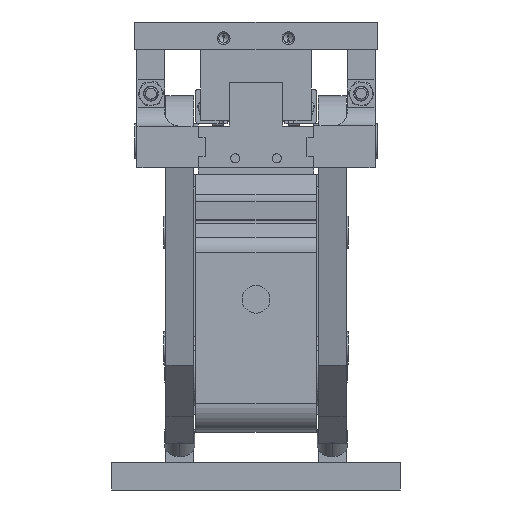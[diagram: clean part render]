
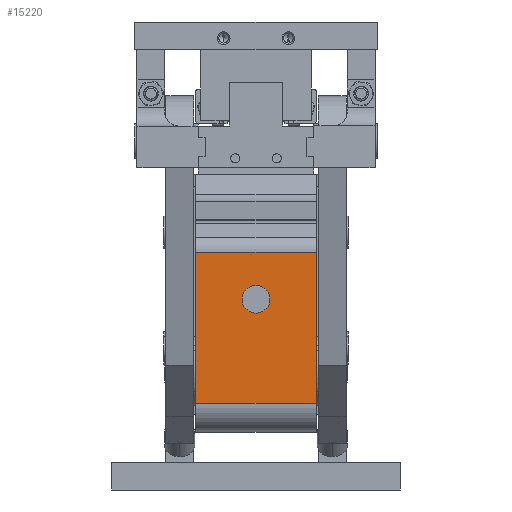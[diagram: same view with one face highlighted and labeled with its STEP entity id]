
A CAD part, left-side view. The second image highlights one B-rep face of the part: STEP entity #15220.
In plain terms, the highlighted planar face has unit normal (-1, 0, 0) as drawn and (0, 1, 0) by its records, which use the part's own axes.
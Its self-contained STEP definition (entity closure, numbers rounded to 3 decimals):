
#47 = ORIENTED_EDGE ( 'NONE', *, *, #2845, .F. ) ;
#1355 = EDGE_CURVE ( 'NONE', #35245, #37307, #11008, .T. ) ;
#1666 = DIRECTION ( 'NONE',  ( 0., 1., 0. ) ) ;
#2845 = EDGE_CURVE ( 'NONE', #35245, #44716, #15379, .T. ) ;
#4249 = CARTESIAN_POINT ( 'NONE',  ( 31., 51.5, -4. ) ) ;
#5165 = VECTOR ( 'NONE', #31741, 1000. ) ;
#6600 = DIRECTION ( 'NONE',  ( 0., 0., -1. ) ) ;
#6677 = VECTOR ( 'NONE', #6600, 1000. ) ;
#6683 = VERTEX_POINT ( 'NONE', #27496 ) ;
#7921 = VECTOR ( 'NONE', #17862, 1000. ) ;
#9462 = CARTESIAN_POINT ( 'NONE',  ( -14., 51.5, 27. ) ) ;
#10141 = FACE_BOUND ( 'NONE', #35307, .T. ) ;
#11008 = LINE ( 'NONE', #41574, #5165 ) ;
#11276 = EDGE_CURVE ( 'NONE', #6683, #25161, #29458, .T. ) ;
#12757 = CIRCLE ( 'NONE', #44839, 4. ) ;
#13788 = DIRECTION ( 'NONE',  ( 0., 0., -1. ) ) ;
#14391 = EDGE_CURVE ( 'NONE', #44716, #41530, #30748, .T. ) ;
#15220 = ADVANCED_FACE ( 'NONE', ( #10141, #37950 ), #17212, .F. ) ;
#15379 = LINE ( 'NONE', #39102, #27325 ) ;
#15524 = EDGE_LOOP ( 'NONE', ( #40608, #17689, #47, #22700 ) ) ;
#17129 = AXIS2_PLACEMENT_3D ( 'NONE', #40167, #36768, #32883 ) ;
#17212 = PLANE ( 'NONE',  #19101 ) ;
#17407 = EDGE_CURVE ( 'NONE', #25161, #6683, #12757, .T. ) ;
#17689 = ORIENTED_EDGE ( 'NONE', *, *, #14391, .F. ) ;
#17862 = DIRECTION ( 'NONE',  ( 1., 0., 0. ) ) ;
#19101 = AXIS2_PLACEMENT_3D ( 'NONE', #9462, #31096, #13788 ) ;
#21280 = CARTESIAN_POINT ( 'NONE',  ( 51.4, 51.5, 26. ) ) ;
#22700 = ORIENTED_EDGE ( 'NONE', *, *, #1355, .T. ) ;
#23192 = ORIENTED_EDGE ( 'NONE', *, *, #11276, .F. ) ;
#24181 = CARTESIAN_POINT ( 'NONE',  ( 51.4, 51.5, -26. ) ) ;
#24451 = CARTESIAN_POINT ( 'NONE',  ( -14., 51.5, -26. ) ) ;
#25161 = VERTEX_POINT ( 'NONE', #4249 ) ;
#27325 = VECTOR ( 'NONE', #32253, 1000. ) ;
#27496 = CARTESIAN_POINT ( 'NONE',  ( 31., 51.5, 4. ) ) ;
#29458 = CIRCLE ( 'NONE', #17129, 4. ) ;
#30748 = LINE ( 'NONE', #34178, #6677 ) ;
#31096 = DIRECTION ( 'NONE',  ( 0., -1., 0. ) ) ;
#31364 = CARTESIAN_POINT ( 'NONE',  ( -14., 51.5, 26. ) ) ;
#31741 = DIRECTION ( 'NONE',  ( 0., 0., -1. ) ) ;
#32253 = DIRECTION ( 'NONE',  ( -1., 0., 0. ) ) ;
#32678 = DIRECTION ( 'NONE',  ( 0., 0., -1. ) ) ;
#32883 = DIRECTION ( 'NONE',  ( 0., 0., -1. ) ) ;
#34178 = CARTESIAN_POINT ( 'NONE',  ( -14., 51.5, 27. ) ) ;
#34509 = LINE ( 'NONE', #24451, #7921 ) ;
#34932 = ORIENTED_EDGE ( 'NONE', *, *, #17407, .F. ) ;
#35245 = VERTEX_POINT ( 'NONE', #21280 ) ;
#35307 = EDGE_LOOP ( 'NONE', ( #34932, #23192 ) ) ;
#36022 = EDGE_CURVE ( 'NONE', #41530, #37307, #34509, .T. ) ;
#36768 = DIRECTION ( 'NONE',  ( 0., 1., 0. ) ) ;
#37307 = VERTEX_POINT ( 'NONE', #24181 ) ;
#37950 = FACE_OUTER_BOUND ( 'NONE', #15524, .T. ) ;
#39102 = CARTESIAN_POINT ( 'NONE',  ( -14., 51.5, 26. ) ) ;
#40167 = CARTESIAN_POINT ( 'NONE',  ( 31., 51.5, 0. ) ) ;
#40429 = CARTESIAN_POINT ( 'NONE',  ( 31., 51.5, 0. ) ) ;
#40608 = ORIENTED_EDGE ( 'NONE', *, *, #36022, .F. ) ;
#41530 = VERTEX_POINT ( 'NONE', #44214 ) ;
#41574 = CARTESIAN_POINT ( 'NONE',  ( 51.4, 51.5, 27. ) ) ;
#44214 = CARTESIAN_POINT ( 'NONE',  ( -14., 51.5, -26. ) ) ;
#44716 = VERTEX_POINT ( 'NONE', #31364 ) ;
#44839 = AXIS2_PLACEMENT_3D ( 'NONE', #40429, #1666, #32678 ) ;
